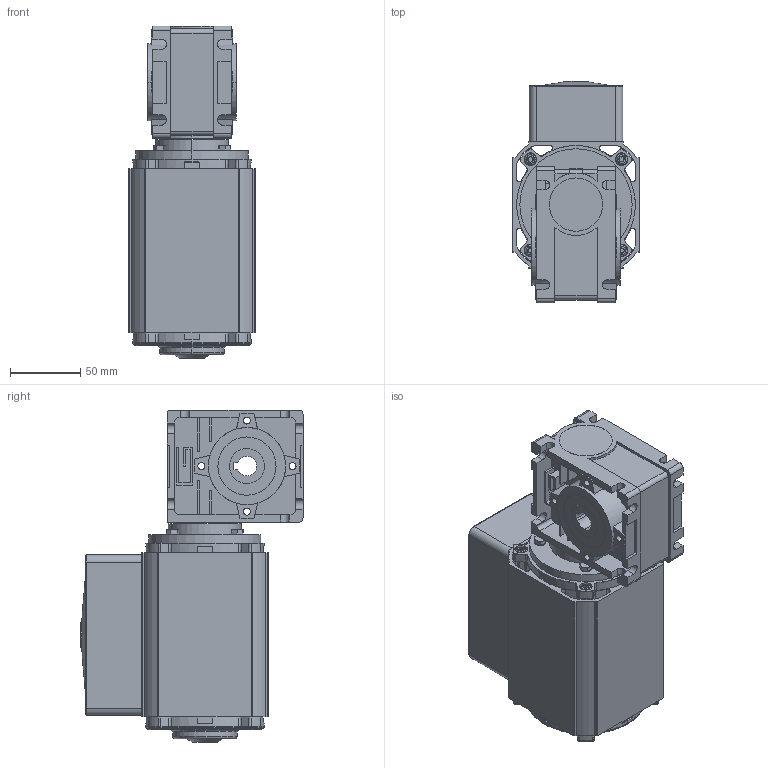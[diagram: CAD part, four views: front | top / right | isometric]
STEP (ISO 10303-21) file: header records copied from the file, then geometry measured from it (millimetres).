
FILE_DESCRIPTION (( 'STEP AP203' ), '1' );
FILE_NAME ('AC8040NV-RA3000T.STEP', '2008-06-30T20:21:53', ( 'eng-rjs' ), ( 'groschopp' ), 'SwSTEP 2.0', 'SolidWorks 2008', '' );
FILE_SCHEMA (( 'CONFIG_CONTROL_DESIGN' ));
Products named in the file (1): AC8040NV-RA3000T
Bounding box: 90.25 x 158.37 x 236.73 mm (x, y, z)
Surface area: 201219.4 mm2 (no closed solid volume)
Topology: 0 solids, 41 shells, 1043 faces, 3354 edges, 2286 vertices
Faces by surface type: plane 491, cylinder 317, bspline 86, cone 76, torus 57, sphere 16
Entity records: 41720 total; most frequent: CARTESIAN_POINT 12995, DIRECTION 5838, ORIENTED_EDGE 5810, EDGE_CURVE 3354, VERTEX_POINT 2286, AXIS2_PLACEMENT_3D 2137, LINE 1564, VECTOR 1564
